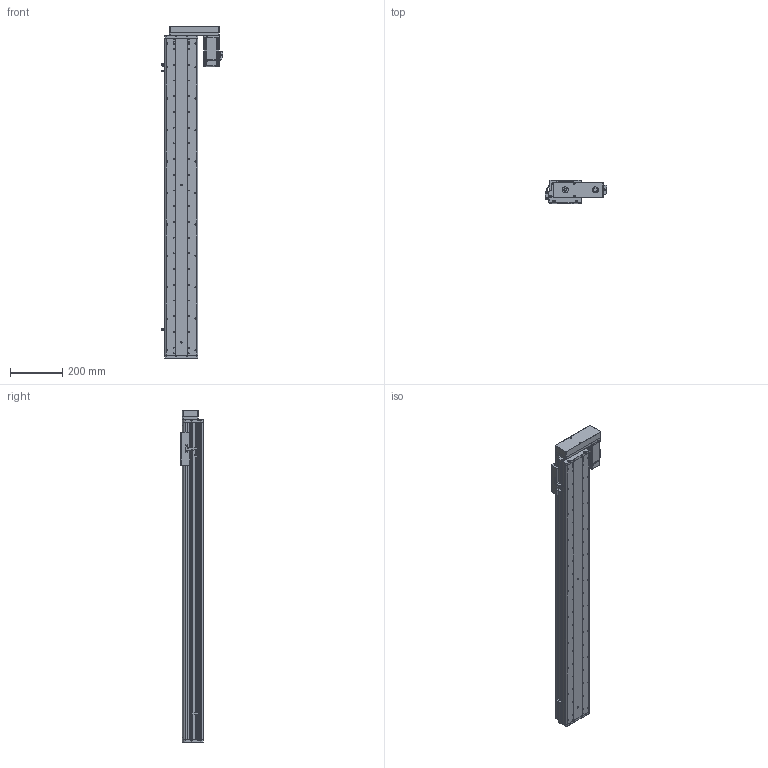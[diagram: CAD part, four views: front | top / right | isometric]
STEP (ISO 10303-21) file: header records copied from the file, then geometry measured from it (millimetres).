
FILE_DESCRIPTION (( 'STEP AP214' ), '1' );
FILE_NAME ('KSD125S-S1000-MR-CM.STEP', '2017-10-21T09:06:03', ( '微软用户' ), ( '微软中国' ), 'SwSTEP 2.0', 'SolidWorks 2014', '' );
FILE_SCHEMA (( 'AUTOMOTIVE_DESIGN' ));
Length unit declared in the file: millimetre
Products named in the file (16): 拸萇儂釱滅袉菜-1; 覜茼え68遵圉猾敕; U倰嫖萇假蚾璃; U倰嫖萇EEㄜSX672; ヶ傷啣-125遵耀郪; 125-帣傷啣1; KSD125S-S1000-MR-CM; HTPA30S3M150_A_H6_a佪裝蚚; HTPA30S3M150_A_H6_a萇儂蚚; 125宽马达安装板连板左右折丝杆; 125悵誘欶酘衵殏; KSD125S-1000俴最佪裝滅鳥裔; KSD125S-1000俴最佪裝菁啣; KSD125-賑雄釱1; MHMD042G1CA_2_03; 拸萇儂釱滅袉菜
Assembly tree (19 placements, depth 2):
  KSD125S-S1000-MR-CM
    125-帣傷啣1
    ヶ傷啣-125遵耀郪
    U倰嫖萇EEㄜSX672  x3
    U倰嫖萇假蚾璃  x3
    覜茼え68遵圉猾敕
    拸萇儂釱滅袉菜-1
    拸萇儂釱滅袉菜
    MHMD042G1CA_2_03
    KSD125-賑雄釱1
    KSD125S-1000俴最佪裝菁啣
    KSD125S-1000俴最佪裝滅鳥裔
    125悵誘欶酘衵殏
    125宽马达安装板连板左右折丝杆
    HTPA30S3M150_A_H6_a萇儂蚚
    HTPA30S3M150_A_H6_a佪裝蚚
Bounding box: 234.2 x 86 x 1267.5 mm (x, y, z)
Volume: 3973681.2 mm3; surface area: 1340618.3 mm2
Topology: 18 solids, 21 shells, 2269 faces, 6585 edges, 4345 vertices
Faces by surface type: cylinder 1438, plane 690, cone 119, bspline 22
Entity records: 80411 total; most frequent: CARTESIAN_POINT 16303, DIRECTION 12543, ORIENTED_EDGE 11678, EDGE_CURVE 5917, AXIS2_PLACEMENT_3D 4863, VERTEX_POINT 3937, VECTOR 2817, LINE 2817
